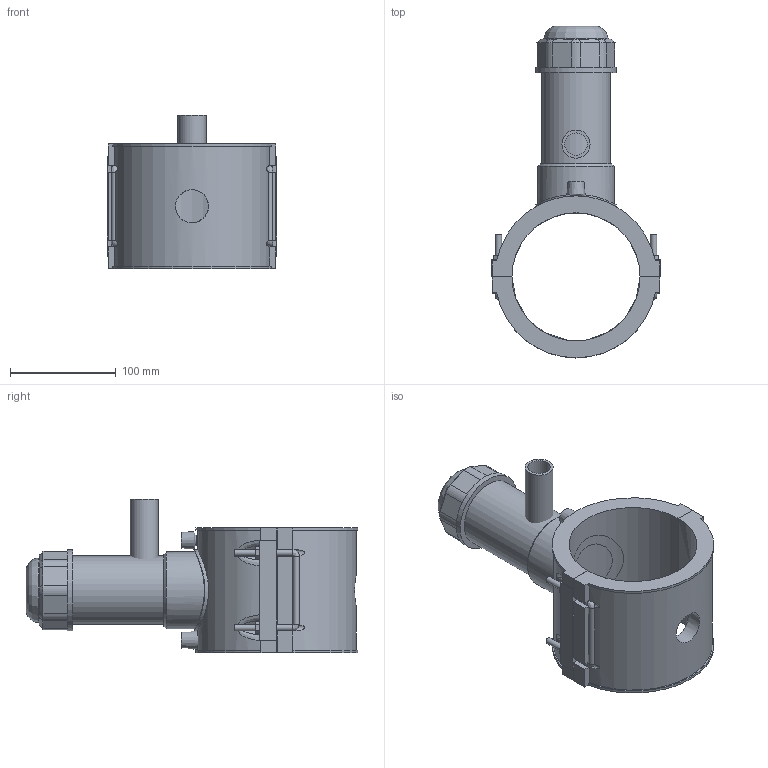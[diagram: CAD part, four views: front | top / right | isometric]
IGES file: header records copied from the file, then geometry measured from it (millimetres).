
Global section: file name: 5963DBP3040007.ipt; native system: Autodesk Inventor 2019; preprocessor: unknown; author: KIM; date: 20210830.101637; units: inch
Bounding box: 161 x 314.4 x 145.16 mm (x, y, z)
Volume: 1150773.8 mm3; surface area: 220465.3 mm2
Topology: 4 solids, 4 shells, 194 faces, 481 edges, 312 vertices
Faces by surface type: plane 118, cylinder 36, revolution 21, cone 15, bspline 4
Full cylindrical faces by diameter (mm): 4 x2, 6 x8, 26.6 x1, 61.135 x1, 64.956 x1, 72.598 x1, 76.419 x2
